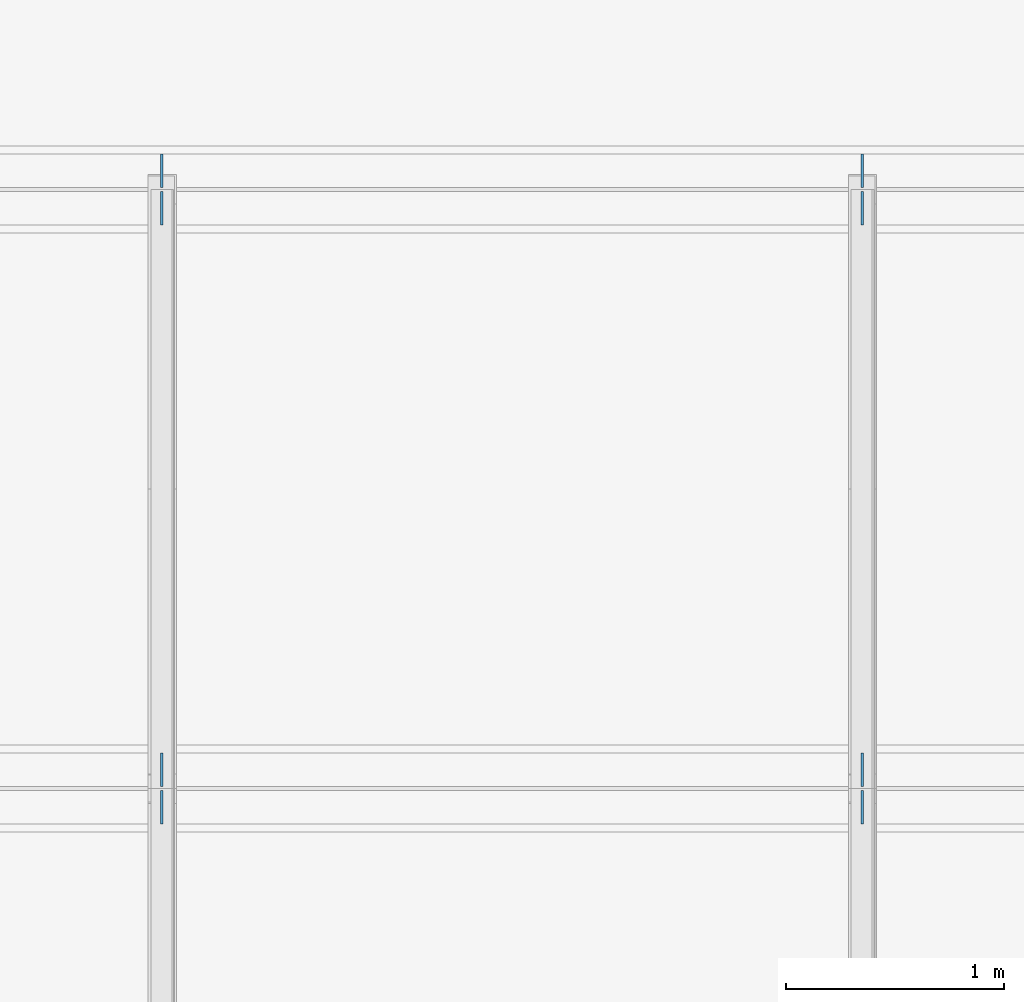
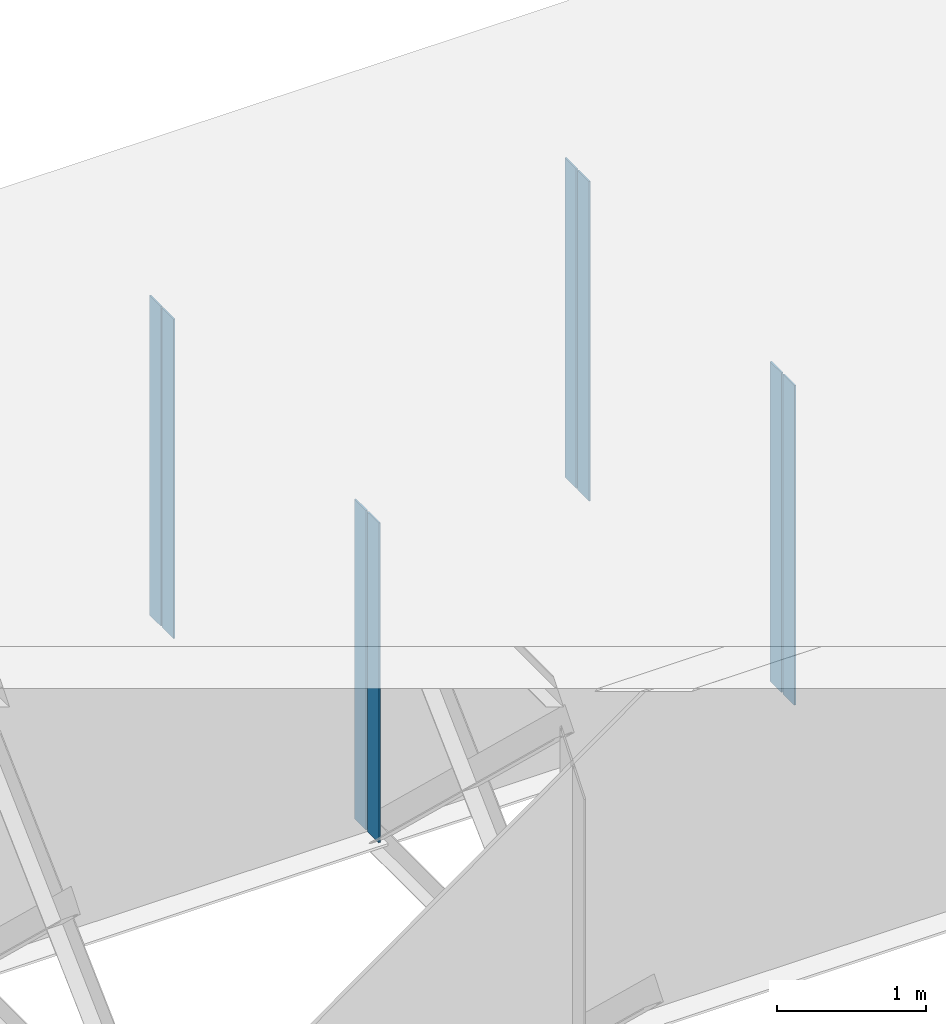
# One storey, part 14 of 20: 8 plates.
"""IFC4 building model written with IfcOpenShell, lengths in metres."""

from ifc_helpers import new_model, si_unit, frame, origin, origin_with_axes, origin_2d_with_axis, place, context, subcontext, project, spatial, rectangle, extrude, element, save


model = new_model("IFC4")

# Units and contexts
model_context = context("Model", 3, precision=1e-05, world=origin())
body_context = subcontext(model_context, "Body", "Model", "MODEL_VIEW")
ifc_project = project(units=[si_unit("LENGTHUNIT", "METRE"), si_unit("AREAUNIT", "SQUARE_METRE"), si_unit("VOLUMEUNIT", "CUBIC_METRE"), si_unit("PLANEANGLEUNIT", "RADIAN")], contexts=[model_context])

# Site, building, storey
site_placement = place(None, origin_with_axes())
site = spatial("IfcSite", under=ifc_project, at=site_placement, Name="Default Site")
building_placement = place(site_placement, origin_with_axes())
building = spatial("IfcBuilding", under=site, at=building_placement, Name="Bridge Structure")
storey_placement = place(building_placement, origin_with_axes())
storey = spatial("IfcBuildingStorey", under=building, at=storey_placement, Name="Superstructure")

# Plates
for number, where, z_axis, x_axis, name in (
    (1, (16.07, 2.83575, -1.307), (0.0, 0.0, 1.0), (1.0, 0.0, 0.0), "Intermediate Stiffener 4"),
    (2, (16.07, 2.66425, -1.307), (0.0, 0.0, 1.0), (1.0, 0.0, 0.0), "Intermediate Stiffener 4"),
    (3, (19.284, 2.83575, -1.307), (0.0, 0.0, 1.0), (1.0, 0.0, 0.0), "Intermediate Stiffener 4"),
    (4, (19.284, 2.66425, -1.307), (0.0, 0.0, 1.0), (1.0, 0.0, 0.0), "Intermediate Stiffener 4"),
    (5, (16.07, 5.58575, -1.307), (0.0, 0.0, 1.0), (1.0, 0.0, 0.0), "Intermediate Stiffener 5"),
    (6, (16.07, 5.41425, -1.307), (0.0, 0.0, 1.0), (1.0, 0.0, 0.0), "Intermediate Stiffener 5"),
    (7, (19.284, 5.58575, -1.307), (0.0, 0.0, 1.0), (1.0, 0.0, 0.0), "Intermediate Stiffener 5"),
    (8, (19.284, 5.41425, -1.307), (0.0, 0.0, 1.0), (1.0, 0.0, 0.0), "Intermediate Stiffener 5"),
):
    element("IfcPlate", number, at=place(storey_placement, frame(where, z_axis=z_axis, x_axis=x_axis)), inside=storey, Name=name, context=body_context, shape_type="SweptSolid", body=[
        extrude(rectangle(XDim=0.012, YDim=0.1535, at=origin_2d_with_axis()), origin_with_axes(), (0.0, 0.0, 1.0), 2.614),
    ])

save(model, "model.ifc")
